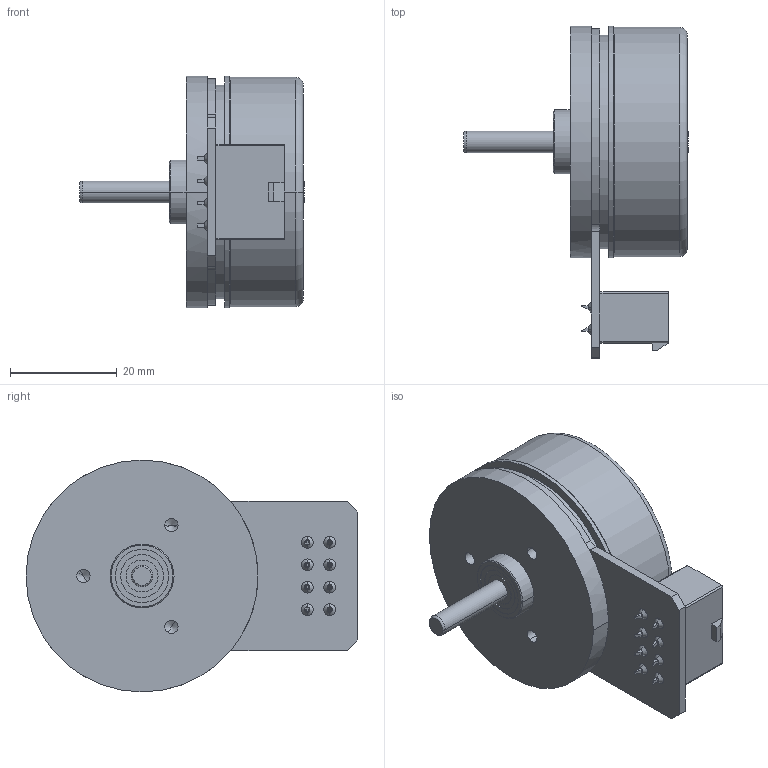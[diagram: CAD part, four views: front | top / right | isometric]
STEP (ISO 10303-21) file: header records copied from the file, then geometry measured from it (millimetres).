
FILE_DESCRIPTION((''),'2;1');
FILE_NAME('4388116','2020-04-20T',('MMAGVISI'),(''),'CREO PARAMETRIC BY PTC INC, 2017300','CREO PARAMETRIC BY PTC INC, 2017300','');
FILE_SCHEMA(('CONFIG_CONTROL_DESIGN'));
Length unit declared in the file: millimetre
Products named in the file (1): 4388116
Bounding box: 42.2 x 62.25 x 43.5 mm (x, y, z)
Volume: 33993 mm3; surface area: 10202.2 mm2
Topology: 1 solids, 1 shells, 310 faces, 753 edges, 491 vertices
Faces by surface type: plane 195, cylinder 81, cone 26, revolution 4, torus 4
Entity records: 11404 total; most frequent: CARTESIAN_POINT 1590, DIRECTION 1571, ORIENTED_EDGE 1494, PRESENTATION_STYLE_ASSIGNMENT 748, STYLED_ITEM 748, CURVE_STYLE 747, EDGE_CURVE 747, VECTOR 531
